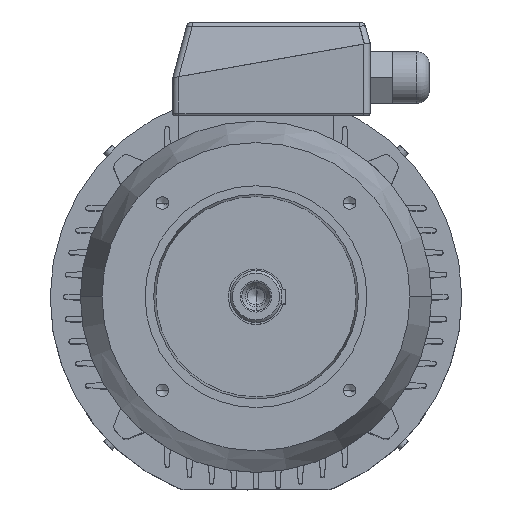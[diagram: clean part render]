
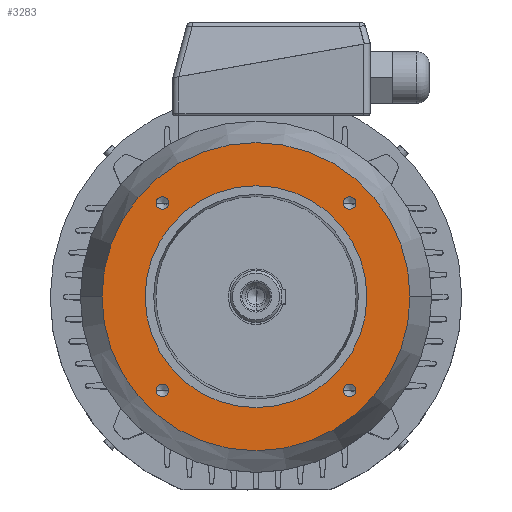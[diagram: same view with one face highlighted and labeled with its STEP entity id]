
A CAD part, top view. The second image highlights one B-rep face of the part: STEP entity #3283.
In plain terms, the highlighted planar face has unit normal (0, 0, 1).
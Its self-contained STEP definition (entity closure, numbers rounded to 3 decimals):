
#4 = VERTEX_POINT ( 'NONE', #9473 ) ;
#218 = EDGE_CURVE ( 'NONE', #10420, #573, #9546, .T. ) ;
#240 = EDGE_CURVE ( 'NONE', #4, #8373, #9560, .T. ) ;
#531 = VERTEX_POINT ( 'NONE', #9714 ) ;
#573 = VERTEX_POINT ( 'NONE', #9734 ) ;
#632 = ORIENTED_EDGE ( 'NONE', *, *, #218, .F. ) ;
#1203 = EDGE_LOOP ( 'NONE', ( #632, #5048 ) ) ;
#1456 = ORIENTED_EDGE ( 'NONE', *, *, #9327, .F. ) ;
#1840 = CIRCLE ( 'NONE', #1841, 5.1 ) ;
#1841 = AXIS2_PLACEMENT_3D ( 'NONE', #1842, #1843, #1844 ) ;
#1842 = CARTESIAN_POINT ( 'NONE',  ( 76.014, -76.014, 75. ) ) ;
#1843 = DIRECTION ( 'NONE',  ( 0., 0., 1. ) ) ;
#1844 = DIRECTION ( 'NONE',  ( 1., 0., 0. ) ) ;
#1998 = CARTESIAN_POINT ( 'NONE',  ( -70.914, -76.014, 75. ) ) ;
#2041 = EDGE_CURVE ( 'NONE', #9276, #531, #10724, .T. ) ;
#2236 = CIRCLE ( 'NONE', #2237, 5.1 ) ;
#2237 = AXIS2_PLACEMENT_3D ( 'NONE', #2238, #2239, #2243 ) ;
#2238 = CARTESIAN_POINT ( 'NONE',  ( -76.014, -76.014, 75. ) ) ;
#2239 = DIRECTION ( 'NONE',  ( 0., 0., 1. ) ) ;
#2243 = DIRECTION ( 'NONE',  ( 1., 0., 0. ) ) ;
#2447 = ORIENTED_EDGE ( 'NONE', *, *, #2041, .F. ) ;
#2485 = CARTESIAN_POINT ( 'NONE',  ( -125., 0., 75. ) ) ;
#2728 = CARTESIAN_POINT ( 'NONE',  ( 125., 0., 75. ) ) ;
#2928 = CIRCLE ( 'NONE', #2929, 5.1 ) ;
#2929 = AXIS2_PLACEMENT_3D ( 'NONE', #2930, #2938, #2939 ) ;
#2930 = CARTESIAN_POINT ( 'NONE',  ( -76.014, -76.014, 75. ) ) ;
#2938 = DIRECTION ( 'NONE',  ( 0., 0., 1. ) ) ;
#2939 = DIRECTION ( 'NONE',  ( 1., 0., 0. ) ) ;
#3016 = EDGE_LOOP ( 'NONE', ( #2447, #1456 ) ) ;
#3064 = CARTESIAN_POINT ( 'NONE',  ( -90., 0., 75. ) ) ;
#3283 = ADVANCED_FACE ( 'NONE', ( #11314, #11315, #11316, #11317, #11318, #11319 ), #11320, .F. ) ;
#4816 = EDGE_CURVE ( 'NONE', #14450, #14198, #12041, .T. ) ;
#4825 = CARTESIAN_POINT ( 'NONE',  ( -81.114, -76.014, 75. ) ) ;
#4951 = VERTEX_POINT ( 'NONE', #12094 ) ;
#5048 = ORIENTED_EDGE ( 'NONE', *, *, #10673, .F. ) ;
#5358 = EDGE_CURVE ( 'NONE', #8373, #4, #12250, .T. ) ;
#5546 = CARTESIAN_POINT ( 'NONE',  ( -70.914, 76.014, 75. ) ) ;
#5672 = CIRCLE ( 'NONE', #5673, 5.1 ) ;
#5673 = AXIS2_PLACEMENT_3D ( 'NONE', #5674, #5675, #5676 ) ;
#5674 = CARTESIAN_POINT ( 'NONE',  ( -76.014, 76.014, 75. ) ) ;
#5675 = DIRECTION ( 'NONE',  ( 0., 0., 1. ) ) ;
#5676 = DIRECTION ( 'NONE',  ( 1., 0., 0. ) ) ;
#6112 = EDGE_CURVE ( 'NONE', #7281, #4951, #12605, .T. ) ;
#6341 = CIRCLE ( 'NONE', #6342, 125. ) ;
#6342 = AXIS2_PLACEMENT_3D ( 'NONE', #6343, #6344, #6345 ) ;
#6343 = CARTESIAN_POINT ( 'NONE',  ( 0., 0., 75. ) ) ;
#6344 = DIRECTION ( 'NONE',  ( 0., 0., 1. ) ) ;
#6345 = DIRECTION ( 'NONE',  ( 1., 0., 0. ) ) ;
#6505 = CARTESIAN_POINT ( 'NONE',  ( 81.114, 76.014, 75. ) ) ;
#6656 = CIRCLE ( 'NONE', #6657, 5.1 ) ;
#6657 = AXIS2_PLACEMENT_3D ( 'NONE', #6658, #6659, #6660 ) ;
#6658 = CARTESIAN_POINT ( 'NONE',  ( 76.014, 76.014, 75. ) ) ;
#6659 = DIRECTION ( 'NONE',  ( 0., 0., 1. ) ) ;
#6660 = DIRECTION ( 'NONE',  ( 1., 0., 0. ) ) ;
#7281 = VERTEX_POINT ( 'NONE', #13155 ) ;
#8373 = VERTEX_POINT ( 'NONE', #3064 ) ;
#8425 = ORIENTED_EDGE ( 'NONE', *, *, #14602, .F. ) ;
#8959 = VERTEX_POINT ( 'NONE', #4825 ) ;
#9276 = VERTEX_POINT ( 'NONE', #5546 ) ;
#9327 = EDGE_CURVE ( 'NONE', #531, #9276, #5672, .T. ) ;
#9469 = EDGE_LOOP ( 'NONE', ( #8425, #14238 ) ) ;
#9473 = CARTESIAN_POINT ( 'NONE',  ( 90., 0., 75. ) ) ;
#9546 = CIRCLE ( 'NONE', #9547, 5.1 ) ;
#9547 = AXIS2_PLACEMENT_3D ( 'NONE', #9548, #9550, #9551 ) ;
#9548 = CARTESIAN_POINT ( 'NONE',  ( 76.014, 76.014, 75. ) ) ;
#9550 = DIRECTION ( 'NONE',  ( 0., 0., 1. ) ) ;
#9551 = DIRECTION ( 'NONE',  ( 1., 0., 0. ) ) ;
#9560 = CIRCLE ( 'NONE', #9561, 90. ) ;
#9561 = AXIS2_PLACEMENT_3D ( 'NONE', #9562, #9563, #9564 ) ;
#9562 = CARTESIAN_POINT ( 'NONE',  ( 0., 0., 75. ) ) ;
#9563 = DIRECTION ( 'NONE',  ( 0., 0., 1. ) ) ;
#9564 = DIRECTION ( 'NONE',  ( 1., 0., 0. ) ) ;
#9714 = CARTESIAN_POINT ( 'NONE',  ( -81.114, 76.014, 75. ) ) ;
#9723 = ORIENTED_EDGE ( 'NONE', *, *, #4816, .T. ) ;
#9734 = CARTESIAN_POINT ( 'NONE',  ( 70.914, 76.014, 75. ) ) ;
#10120 = EDGE_CURVE ( 'NONE', #14198, #14450, #6341, .T. ) ;
#10420 = VERTEX_POINT ( 'NONE', #6505 ) ;
#10529 = ORIENTED_EDGE ( 'NONE', *, *, #10120, .T. ) ;
#10673 = EDGE_CURVE ( 'NONE', #573, #10420, #6656, .T. ) ;
#10724 = CIRCLE ( 'NONE', #10725, 5.1 ) ;
#10725 = AXIS2_PLACEMENT_3D ( 'NONE', #10726, #10727, #10728 ) ;
#10726 = CARTESIAN_POINT ( 'NONE',  ( -76.014, 76.014, 75. ) ) ;
#10727 = DIRECTION ( 'NONE',  ( 0., 0., 1. ) ) ;
#10728 = DIRECTION ( 'NONE',  ( 1., 0., 0. ) ) ;
#11111 = EDGE_LOOP ( 'NONE', ( #10529, #9723 ) ) ;
#11314 = FACE_BOUND ( 'NONE', #3016, .T. ) ;
#11315 = FACE_BOUND ( 'NONE', #1203, .T. ) ;
#11316 = FACE_BOUND ( 'NONE', #9469, .T. ) ;
#11317 = FACE_BOUND ( 'NONE', #14516, .T. ) ;
#11318 = FACE_BOUND ( 'NONE', #12694, .T. ) ;
#11319 = FACE_OUTER_BOUND ( 'NONE', #11111, .T. ) ;
#11320 = PLANE ( 'NONE',  #11321 ) ;
#11321 = AXIS2_PLACEMENT_3D ( 'NONE', #11322, #11323, #11324 ) ;
#11322 = CARTESIAN_POINT ( 'NONE',  ( 0., 125., 75. ) ) ;
#11323 = DIRECTION ( 'NONE',  ( 0., 0., -1. ) ) ;
#11324 = DIRECTION ( 'NONE',  ( -1., 0., 0. ) ) ;
#11378 = ORIENTED_EDGE ( 'NONE', *, *, #5358, .F. ) ;
#11939 = ORIENTED_EDGE ( 'NONE', *, *, #240, .F. ) ;
#12041 = CIRCLE ( 'NONE', #12042, 125. ) ;
#12042 = AXIS2_PLACEMENT_3D ( 'NONE', #12043, #12044, #12045 ) ;
#12043 = CARTESIAN_POINT ( 'NONE',  ( 0., 0., 75. ) ) ;
#12044 = DIRECTION ( 'NONE',  ( 0., 0., 1. ) ) ;
#12045 = DIRECTION ( 'NONE',  ( 1., 0., 0. ) ) ;
#12094 = CARTESIAN_POINT ( 'NONE',  ( 81.114, -76.014, 75. ) ) ;
#12250 = CIRCLE ( 'NONE', #12251, 90. ) ;
#12251 = AXIS2_PLACEMENT_3D ( 'NONE', #12252, #12253, #12254 ) ;
#12252 = CARTESIAN_POINT ( 'NONE',  ( 0., 0., 75. ) ) ;
#12253 = DIRECTION ( 'NONE',  ( 0., 0., 1. ) ) ;
#12254 = DIRECTION ( 'NONE',  ( 1., 0., 0. ) ) ;
#12605 = CIRCLE ( 'NONE', #12606, 5.1 ) ;
#12606 = AXIS2_PLACEMENT_3D ( 'NONE', #12607, #12608, #12613 ) ;
#12607 = CARTESIAN_POINT ( 'NONE',  ( 76.014, -76.014, 75. ) ) ;
#12608 = DIRECTION ( 'NONE',  ( 0., 0., 1. ) ) ;
#12613 = DIRECTION ( 'NONE',  ( 1., 0., 0. ) ) ;
#12694 = EDGE_LOOP ( 'NONE', ( #11939, #11378 ) ) ;
#12962 = ORIENTED_EDGE ( 'NONE', *, *, #6112, .F. ) ;
#13155 = CARTESIAN_POINT ( 'NONE',  ( 70.914, -76.014, 75. ) ) ;
#13535 = EDGE_CURVE ( 'NONE', #4951, #7281, #1840, .T. ) ;
#13741 = VERTEX_POINT ( 'NONE', #1998 ) ;
#13943 = ORIENTED_EDGE ( 'NONE', *, *, #13535, .F. ) ;
#13984 = EDGE_CURVE ( 'NONE', #8959, #13741, #2236, .T. ) ;
#14198 = VERTEX_POINT ( 'NONE', #2485 ) ;
#14238 = ORIENTED_EDGE ( 'NONE', *, *, #13984, .F. ) ;
#14450 = VERTEX_POINT ( 'NONE', #2728 ) ;
#14516 = EDGE_LOOP ( 'NONE', ( #13943, #12962 ) ) ;
#14602 = EDGE_CURVE ( 'NONE', #13741, #8959, #2928, .T. ) ;
